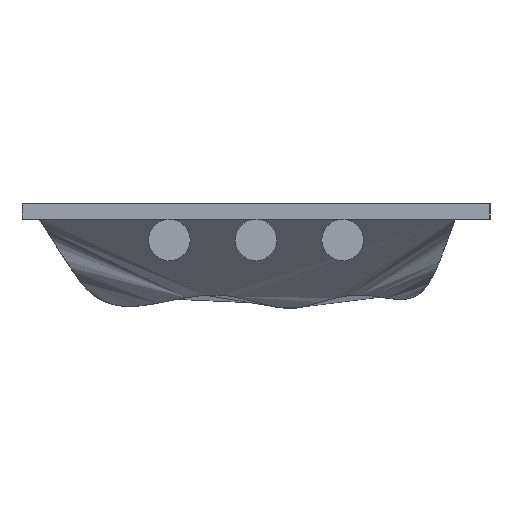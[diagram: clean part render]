
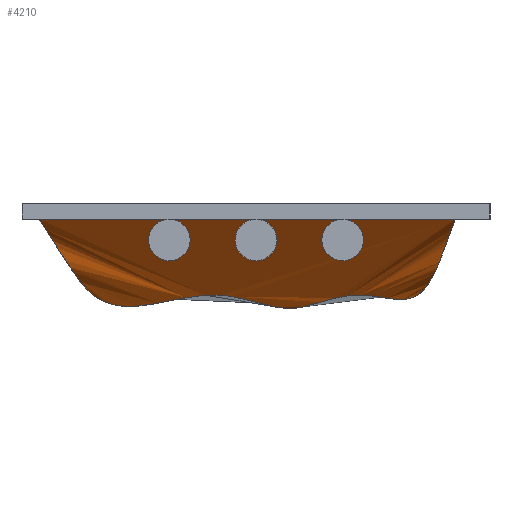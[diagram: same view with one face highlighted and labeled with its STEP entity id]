
A CAD part, left-side view. The second image highlights one B-rep face of the part: STEP entity #4210.
In plain terms, the highlighted free-form (B-spline) face has degree [3, 1] with [13, 2] control points.
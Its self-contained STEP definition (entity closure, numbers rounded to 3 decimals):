
#86=B_SPLINE_SURFACE_WITH_KNOTS('',3,1,((#8772,#8773),(#8774,#8775),(#8776,
#8777),(#8778,#8779),(#8780,#8781),(#8782,#8783),(#8784,#8785),(#8786,#8787),
(#8788,#8789),(#8790,#8791),(#8792,#8793),(#8794,#8795),(#8796,#8797)),
 .SURF_OF_LINEAR_EXTRUSION.,.F.,.F.,.F.,(4,1,1,1,1,1,1,1,1,1,4),(2,2),(0.,
0.225,0.337,0.449,0.562,
0.674,0.73,0.786,0.814,
0.842,0.899),(0.,1.),.UNSPECIFIED.);
#186=B_SPLINE_CURVE_WITH_KNOTS('',3,(#8708,#8709,#8710,#8711,#8712,#8713,
#8714,#8715,#8716,#8717,#8718,#8719,#8720,#8721,#8722,#8723,#8724,#8725,
#8726,#8727,#8728,#8729,#8730,#8731,#8732,#8733,#8734,#8735,#8736,#8737),
 .UNSPECIFIED.,.F.,.F.,(4,1,1,1,1,1,1,1,1,1,1,1,1,1,1,1,1,1,1,1,1,1,1,1,
1,1,1,4),(0.,0.001,0.001,
0.002,0.002,0.003,0.003,
0.004,0.004,0.005,0.005,
0.006,0.006,0.007,0.007,
0.008,0.009,0.01,0.011,
0.011,0.012,0.012,0.013,
0.013,0.014,0.014,0.015,
0.016),.UNSPECIFIED.);
#1320=ORIENTED_EDGE('',*,*,#1890,.T.);
#1321=ORIENTED_EDGE('',*,*,#1887,.F.);
#1887=EDGE_CURVE('',#2275,#2276,#186,.T.);
#1890=EDGE_CURVE('',#2275,#2276,#2744,.T.);
#2275=VERTEX_POINT('',#8707);
#2276=VERTEX_POINT('',#8738);
#2744=LINE('',#8770,#3212);
#3212=VECTOR('',#5367,1000.);
#3498=EDGE_LOOP('',(#1320,#1321));
#3784=FACE_BOUND('',#3498,.T.);
#4210=ADVANCED_FACE('',(#3784),#86,.T.);
#5367=DIRECTION('',(1.,0.,0.));
#8707=CARTESIAN_POINT('',(0.,0.,0.));
#8708=CARTESIAN_POINT('',(0.,0.,0.));
#8709=CARTESIAN_POINT('',(0.071,0.196,-0.26));
#8710=CARTESIAN_POINT('',(0.173,0.461,-0.683));
#8711=CARTESIAN_POINT('',(0.376,1.02,-0.988));
#8712=CARTESIAN_POINT('',(0.547,1.451,-1.199));
#8713=CARTESIAN_POINT('',(0.683,1.716,-1.599));
#8714=CARTESIAN_POINT('',(0.842,2.007,-1.985));
#8715=CARTESIAN_POINT('',(1.241,2.321,-2.149));
#8716=CARTESIAN_POINT('',(1.757,2.325,-2.16));
#8717=CARTESIAN_POINT('',(2.248,2.228,-2.098));
#8718=CARTESIAN_POINT('',(2.747,2.174,-2.065));
#8719=CARTESIAN_POINT('',(3.246,2.222,-2.094));
#8720=CARTESIAN_POINT('',(3.749,2.343,-2.169));
#8721=CARTESIAN_POINT('',(4.225,2.503,-2.277));
#8722=CARTESIAN_POINT('',(4.722,2.601,-2.442));
#8723=CARTESIAN_POINT('',(5.235,2.539,-2.325));
#8724=CARTESIAN_POINT('',(5.874,2.369,-2.176));
#8725=CARTESIAN_POINT('',(6.686,2.126,-2.038));
#8726=CARTESIAN_POINT('',(7.737,2.238,-2.104));
#8727=CARTESIAN_POINT('',(8.572,2.437,-2.227));
#8728=CARTESIAN_POINT('',(9.251,2.528,-2.325));
#8729=CARTESIAN_POINT('',(9.784,2.509,-2.297));
#8730=CARTESIAN_POINT('',(10.271,2.345,-2.158));
#8731=CARTESIAN_POINT('',(10.664,2.011,-1.991));
#8732=CARTESIAN_POINT('',(10.889,1.719,-1.603));
#8733=CARTESIAN_POINT('',(11.081,1.446,-1.195));
#8734=CARTESIAN_POINT('',(11.352,1.023,-0.989));
#8735=CARTESIAN_POINT('',(11.699,0.483,-0.702));
#8736=CARTESIAN_POINT('',(11.876,0.2,-0.265));
#8737=CARTESIAN_POINT('',(12.,0.,0.));
#8738=CARTESIAN_POINT('',(12.,0.,0.));
#8770=CARTESIAN_POINT('',(0.,0.,0.));
#8772=CARTESIAN_POINT('',(12.072,0.,0.));
#8773=CARTESIAN_POINT('',(-0.072,0.,0.));
#8774=CARTESIAN_POINT('',(12.072,0.201,-0.266));
#8775=CARTESIAN_POINT('',(-0.072,0.201,-0.266));
#8776=CARTESIAN_POINT('',(12.072,0.44,-0.647));
#8777=CARTESIAN_POINT('',(-0.072,0.44,-0.647));
#8778=CARTESIAN_POINT('',(12.072,0.951,-0.959));
#8779=CARTESIAN_POINT('',(-0.072,0.951,-0.959));
#8780=CARTESIAN_POINT('',(12.072,1.389,-1.157));
#8781=CARTESIAN_POINT('',(-0.072,1.389,-1.157));
#8782=CARTESIAN_POINT('',(12.072,1.681,-1.519));
#8783=CARTESIAN_POINT('',(-0.072,1.681,-1.519));
#8784=CARTESIAN_POINT('',(12.072,1.893,-1.872));
#8785=CARTESIAN_POINT('',(-0.072,1.893,-1.872));
#8786=CARTESIAN_POINT('',(12.072,2.174,-2.069));
#8787=CARTESIAN_POINT('',(-0.072,2.174,-2.069));
#8788=CARTESIAN_POINT('',(12.072,2.355,-2.173));
#8789=CARTESIAN_POINT('',(-0.072,2.355,-2.173));
#8790=CARTESIAN_POINT('',(12.072,2.483,-2.273));
#8791=CARTESIAN_POINT('',(-0.072,2.483,-2.273));
#8792=CARTESIAN_POINT('',(12.072,2.553,-2.353));
#8793=CARTESIAN_POINT('',(-0.072,2.553,-2.353));
#8794=CARTESIAN_POINT('',(12.072,2.57,-2.384));
#8795=CARTESIAN_POINT('',(-0.072,2.57,-2.384));
#8796=CARTESIAN_POINT('',(12.072,2.584,-2.414));
#8797=CARTESIAN_POINT('',(-0.072,2.584,-2.414));
